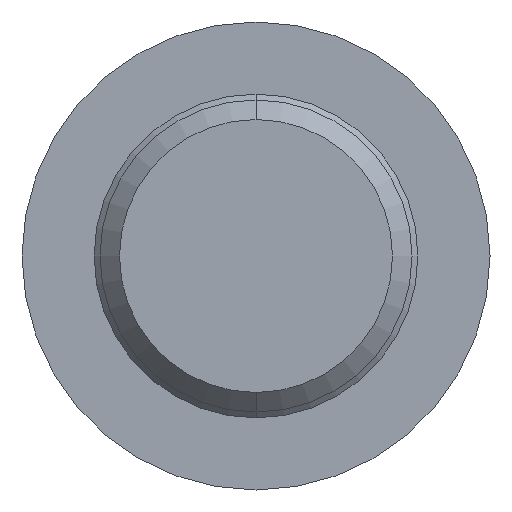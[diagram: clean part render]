
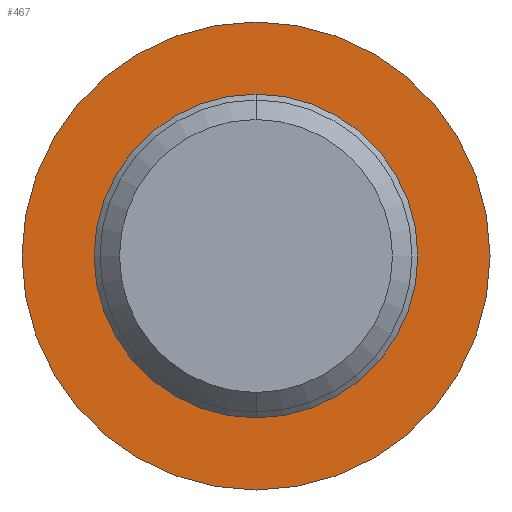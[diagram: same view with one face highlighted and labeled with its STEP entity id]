
A CAD part, front view. The second image highlights one B-rep face of the part: STEP entity #467.
In plain terms, the highlighted planar face has unit normal (0, -1, 0).
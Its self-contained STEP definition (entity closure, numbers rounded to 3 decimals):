
#7 = VERTEX_POINT ( 'NONE', #301 ) ;
#17 = CARTESIAN_POINT ( 'NONE',  ( 0., 8., -6. ) ) ;
#23 = CIRCLE ( 'NONE', #452, 4.15 ) ;
#29 = DIRECTION ( 'NONE',  ( 0., 1., 0. ) ) ;
#37 = DIRECTION ( 'NONE',  ( 0., 1., 0. ) ) ;
#61 = CIRCLE ( 'NONE', #713, 6. ) ;
#66 = FACE_OUTER_BOUND ( 'NONE', #263, .T. ) ;
#70 = PLANE ( 'NONE',  #475 ) ;
#126 = DIRECTION ( 'NONE',  ( 0., 0., 1. ) ) ;
#128 = EDGE_CURVE ( 'NONE', #7, #141, #700, .T. ) ;
#141 = VERTEX_POINT ( 'NONE', #17 ) ;
#155 = AXIS2_PLACEMENT_3D ( 'NONE', #262, #29, #547 ) ;
#157 = DIRECTION ( 'NONE',  ( 0., 0., 1. ) ) ;
#160 = VERTEX_POINT ( 'NONE', #199 ) ;
#199 = CARTESIAN_POINT ( 'NONE',  ( 0., 8., 4.15 ) ) ;
#259 = ORIENTED_EDGE ( 'NONE', *, *, #645, .T. ) ;
#262 = CARTESIAN_POINT ( 'NONE',  ( 0., 8., 0. ) ) ;
#263 = EDGE_LOOP ( 'NONE', ( #574, #400 ) ) ;
#264 = DIRECTION ( 'NONE',  ( 0., 0., 1. ) ) ;
#270 = DIRECTION ( 'NONE',  ( 0., 0., 1. ) ) ;
#295 = DIRECTION ( 'NONE',  ( 0., 1., 0. ) ) ;
#299 = CARTESIAN_POINT ( 'NONE',  ( 6., 8., 0. ) ) ;
#301 = CARTESIAN_POINT ( 'NONE',  ( 0., 8., 6. ) ) ;
#352 = FACE_BOUND ( 'NONE', #495, .T. ) ;
#362 = EDGE_CURVE ( 'NONE', #141, #7, #61, .T. ) ;
#394 = CARTESIAN_POINT ( 'NONE',  ( 0., 8., 0. ) ) ;
#400 = ORIENTED_EDGE ( 'NONE', *, *, #362, .F. ) ;
#448 = DIRECTION ( 'NONE',  ( 0., 1., 0. ) ) ;
#452 = AXIS2_PLACEMENT_3D ( 'NONE', #394, #683, #264 ) ;
#467 = ADVANCED_FACE ( 'NONE', ( #66, #352 ), #70, .F. ) ;
#470 = CARTESIAN_POINT ( 'NONE',  ( 0., 8., -4.15 ) ) ;
#475 = AXIS2_PLACEMENT_3D ( 'NONE', #299, #295, #126 ) ;
#491 = VERTEX_POINT ( 'NONE', #470 ) ;
#495 = EDGE_LOOP ( 'NONE', ( #259, #554 ) ) ;
#517 = CARTESIAN_POINT ( 'NONE',  ( 0., 8., 0. ) ) ;
#547 = DIRECTION ( 'NONE',  ( 0., 0., 1. ) ) ;
#554 = ORIENTED_EDGE ( 'NONE', *, *, #688, .T. ) ;
#562 = CARTESIAN_POINT ( 'NONE',  ( 0., 8., 0. ) ) ;
#564 = CIRCLE ( 'NONE', #679, 4.15 ) ;
#574 = ORIENTED_EDGE ( 'NONE', *, *, #128, .F. ) ;
#645 = EDGE_CURVE ( 'NONE', #160, #491, #564, .T. ) ;
#679 = AXIS2_PLACEMENT_3D ( 'NONE', #517, #448, #157 ) ;
#683 = DIRECTION ( 'NONE',  ( 0., 1., 0. ) ) ;
#688 = EDGE_CURVE ( 'NONE', #491, #160, #23, .T. ) ;
#700 = CIRCLE ( 'NONE', #155, 6. ) ;
#713 = AXIS2_PLACEMENT_3D ( 'NONE', #562, #37, #270 ) ;
